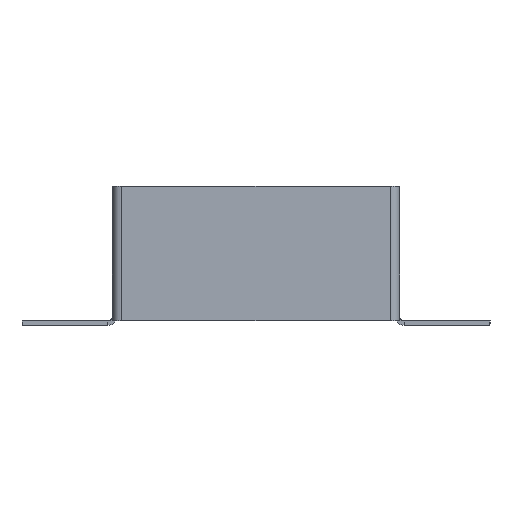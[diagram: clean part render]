
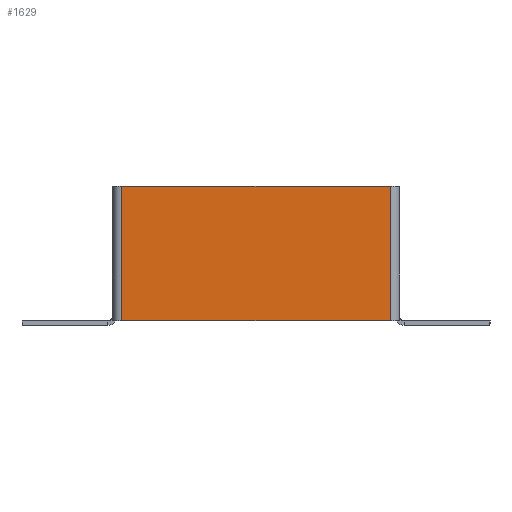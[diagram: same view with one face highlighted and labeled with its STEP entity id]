
A CAD part, front view. The second image highlights one B-rep face of the part: STEP entity #1629.
In plain terms, the highlighted planar face has unit normal (0, -1, 0).
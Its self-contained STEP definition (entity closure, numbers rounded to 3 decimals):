
#435 = DIRECTION ( 'NONE',  ( 1., 0., 0. ) ) ;
#613 = CARTESIAN_POINT ( 'NONE',  ( -58., -2., 0. ) ) ;
#684 = VECTOR ( 'NONE', #3161, 1000. ) ;
#692 = CARTESIAN_POINT ( 'NONE',  ( 58., -2., 0. ) ) ;
#737 = ORIENTED_EDGE ( 'NONE', *, *, #9214, .F. ) ;
#875 = VERTEX_POINT ( 'NONE', #10372 ) ;
#905 = VECTOR ( 'NONE', #435, 1000. ) ;
#922 = AXIS2_PLACEMENT_3D ( 'NONE', #9938, #6713, #8255 ) ;
#983 = FACE_OUTER_BOUND ( 'NONE', #4554, .T. ) ;
#1220 = ORIENTED_EDGE ( 'NONE', *, *, #6950, .T. ) ;
#1556 = LINE ( 'NONE', #613, #9944 ) ;
#1629 = ADVANCED_FACE ( 'NONE', ( #983 ), #3504, .F. ) ;
#1930 = VERTEX_POINT ( 'NONE', #2915 ) ;
#2387 = VERTEX_POINT ( 'NONE', #7928 ) ;
#2915 = CARTESIAN_POINT ( 'NONE',  ( 58., -2., -58. ) ) ;
#2936 = EDGE_CURVE ( 'NONE', #1930, #9709, #3089, .T. ) ;
#3089 = LINE ( 'NONE', #7194, #684 ) ;
#3161 = DIRECTION ( 'NONE',  ( 0., 0., 1. ) ) ;
#3406 = ORIENTED_EDGE ( 'NONE', *, *, #2936, .T. ) ;
#3504 = PLANE ( 'NONE',  #922 ) ;
#4490 = ORIENTED_EDGE ( 'NONE', *, *, #7425, .F. ) ;
#4554 = EDGE_LOOP ( 'NONE', ( #1220, #737, #3406, #4490 ) ) ;
#4725 = LINE ( 'NONE', #5549, #7862 ) ;
#5386 = DIRECTION ( 'NONE',  ( 0., 0., -1. ) ) ;
#5527 = CARTESIAN_POINT ( 'NONE',  ( -60., -2., 0. ) ) ;
#5549 = CARTESIAN_POINT ( 'NONE',  ( -60., -2., -58. ) ) ;
#5628 = DIRECTION ( 'NONE',  ( -1., 0., 0. ) ) ;
#5921 = LINE ( 'NONE', #5527, #905 ) ;
#6713 = DIRECTION ( 'NONE',  ( 0., 1., 0. ) ) ;
#6950 = EDGE_CURVE ( 'NONE', #2387, #875, #1556, .T. ) ;
#7194 = CARTESIAN_POINT ( 'NONE',  ( 58., -2., -58. ) ) ;
#7425 = EDGE_CURVE ( 'NONE', #2387, #9709, #5921, .T. ) ;
#7862 = VECTOR ( 'NONE', #5628, 1000. ) ;
#7928 = CARTESIAN_POINT ( 'NONE',  ( -58., -2., 0. ) ) ;
#8255 = DIRECTION ( 'NONE',  ( 0., 0., 1. ) ) ;
#9214 = EDGE_CURVE ( 'NONE', #1930, #875, #4725, .T. ) ;
#9709 = VERTEX_POINT ( 'NONE', #692 ) ;
#9938 = CARTESIAN_POINT ( 'NONE',  ( 0., -2., 0. ) ) ;
#9944 = VECTOR ( 'NONE', #5386, 1000. ) ;
#10372 = CARTESIAN_POINT ( 'NONE',  ( -58., -2., -58. ) ) ;
